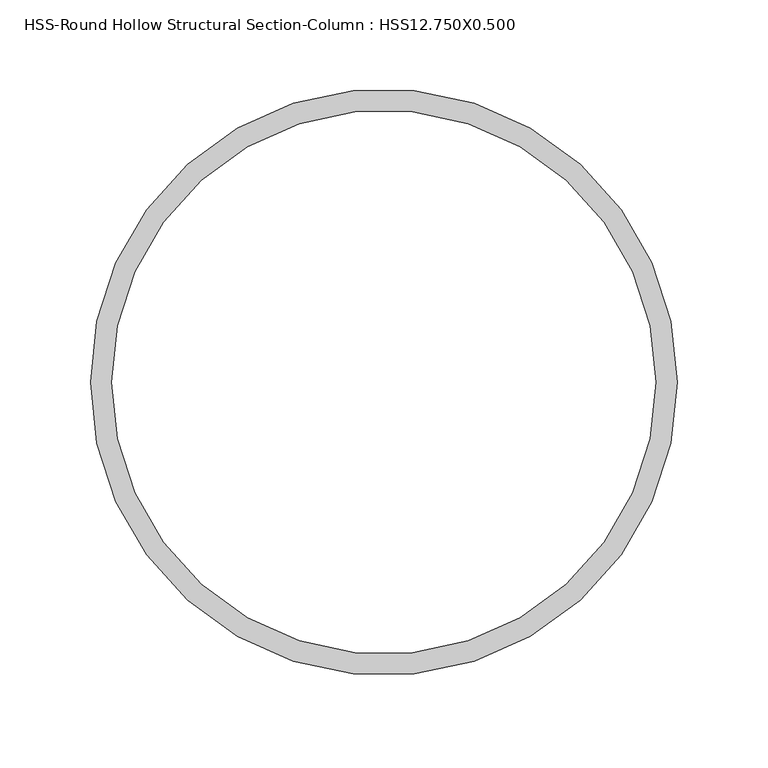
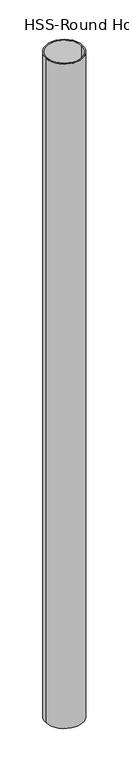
"""IFC4 building model written with IfcOpenShell, lengths in millimetres: column geometry, HSS-Round Hollow Structural Section-Column : HSS12.750X0.500."""

from ifc_helpers import new_model, si_unit, point, frame, origin, origin_2d, place, context, project, spatial, circle_curve, trimmed, segment, composite_curve, outline, extrude, source, transform, mapped, element, save


def hss_round_hollow_structural_section_column_hss12_750x0_500_3b49a283(model_context):
    return source(origin(), model_context, "Body", "SweptSolid", [
        extrude(outline(composite_curve([segment(trimmed(circle_curve(origin_2d(), 161.925), [point((-161.925, 0.0))], [point((161.925, 0.0))], False, "CARTESIAN"), True, "CONTINUOUS"), segment(trimmed(circle_curve(origin_2d(), 161.925), [point((161.925, 0.0))], [point((-161.925, 0.0))], False, "CARTESIAN"), True, "CONTINUOUS")], self_intersect=False), holes=[composite_curve([segment(trimmed(circle_curve(origin_2d(), 150.114), [point((-150.114, 0.0))], [point((150.114, 0.0))], True, "CARTESIAN"), True, "CONTINUOUS"), segment(trimmed(circle_curve(origin_2d(), 150.114), [point((150.114, 0.0))], [point((-150.114, 0.0))], True, "CARTESIAN"), True, "CONTINUOUS")], self_intersect=False)]), frame((0.0, 0.0, 5969.0), z_axis=(0.0, 0.0, 1.0), x_axis=(1.0, 0.0, 0.0)), (0.0, 0.0, 1.0), 6096.0),
    ])


if __name__ == "__main__":
    model = new_model("IFC4")
    model_context = context("Model", 3, world=origin())
    ifc_project = project(units=[si_unit("LENGTHUNIT", "METRE", prefix="MILLI")], contexts=[model_context])
    site = spatial("IfcSite", under=ifc_project)
    building = spatial("IfcBuilding", under=site)
    placement = place(None, origin())
    hss_round_hollow_structural_section_column_hss12_750x0_500_shape = hss_round_hollow_structural_section_column_hss12_750x0_500_3b49a283(model_context)
    element("IfcColumn", 1, ObjectType="HSS-Round Hollow Structural Section-Column : HSS12.750X0.500", at=placement, inside=building, context=model_context, shape_type="MappedRepresentation", body=[
        mapped(hss_round_hollow_structural_section_column_hss12_750x0_500_shape, transform((0.0, 0.0, 0.0), x_axis=(1.0, 0.0, 0.0), y_axis=(0.0, 1.0, 0.0), z_axis=(0.0, 0.0, 1.0))),
    ])
    save(model, "model.ifc")
